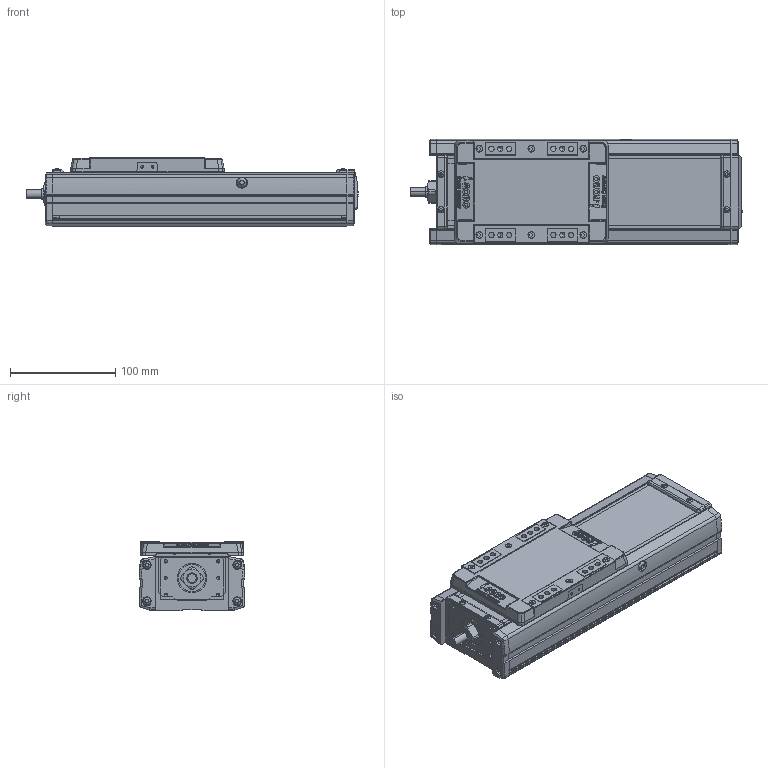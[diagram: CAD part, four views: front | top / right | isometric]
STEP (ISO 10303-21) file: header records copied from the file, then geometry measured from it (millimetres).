
FILE_DESCRIPTION(('STEP AP214'),'1');
FILE_NAME('Z:/Web/3D/SAN100/SAN100 양산용 (STEP)/SAN100ㅁㅁ-100.stp','2013-04-24T05:40:02',(' '),(' '),'Spatial InterOp 3D',' ',' ');
FILE_SCHEMA(('automotive_design'));
Length unit declared in the file: millimetre
Products named in the file (32): SUS COVER; SFX-SAN100; RRCV-SAN100; 스크루 : Round - M4.0 x 10.0; M3.0 x 6.0; 스크루 : Round - M3.0 x 6.0; FRBL-SAN100; SLBL-SAN100; SLCV-SAN100; 스크루 : Countersunk - M3.0 x 6.0; BASE; 스크루 : Round - M5.0 x 6.0; 너트 : Square - M10.0 x 220.7419; RR1500-000L; FRCV-SAN100
Bounding box: 316 x 100 x 66 mm (x, y, z)
Volume: 946223.4 mm3; surface area: 268454.3 mm2
Topology: 32 solids, 33 shells, 1860 faces, 4844 edges, 3117 vertices
Faces by surface type: plane 941, cylinder 667, cone 174, sphere 40, torus 26, bspline 12
Entity records: 73227 total; most frequent: CARTESIAN_POINT 11067, DIRECTION 10171, ORIENTED_EDGE 9548, EDGE_CURVE 4774, AXIS2_PLACEMENT_3D 3618, VERTEX_POINT 3117, LINE 2935, VECTOR 2935
